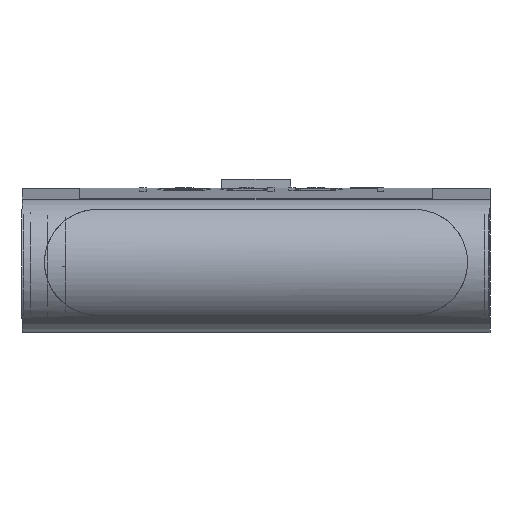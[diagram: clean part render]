
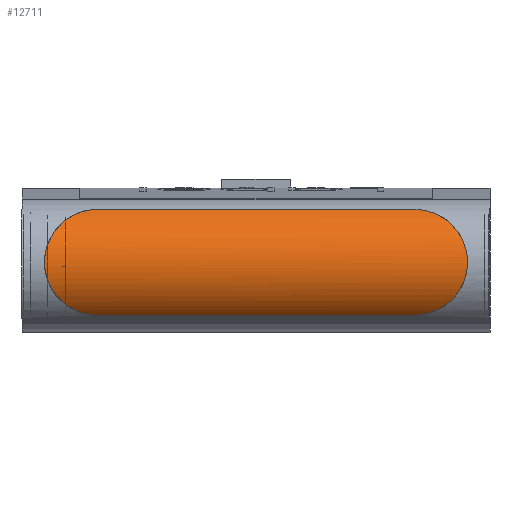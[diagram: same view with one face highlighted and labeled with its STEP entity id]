
A CAD part, left-side view. The second image highlights one B-rep face of the part: STEP entity #12711.
In plain terms, the highlighted cylindrical face has radius 9.37 mm (diameter 18.74 mm), a partial arc.
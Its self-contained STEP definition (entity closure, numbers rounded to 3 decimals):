
#2014=CARTESIAN_POINT('',(4.051,20.55,2.466));
#2015=CARTESIAN_POINT('',(4.051,20.863,2.466));
#2016=CARTESIAN_POINT('',(4.006,21.507,2.506));
#2017=CARTESIAN_POINT('',(3.791,22.514,2.702));
#2018=CARTESIAN_POINT('',(3.412,23.595,3.076));
#2019=CARTESIAN_POINT('',(2.875,24.726,3.688));
#2020=CARTESIAN_POINT('',(2.27,25.789,4.544));
#2021=CARTESIAN_POINT('',(1.736,26.641,5.531));
#2022=CARTESIAN_POINT('',(1.324,27.276,6.578));
#2023=CARTESIAN_POINT('',(1.045,27.712,7.646));
#2024=CARTESIAN_POINT('',(0.894,27.972,8.72));
#2025=CARTESIAN_POINT('',(0.868,28.074,9.794));
#2026=CARTESIAN_POINT('',(0.964,28.022,10.87));
#2027=CARTESIAN_POINT('',(1.189,27.812,11.95));
#2028=CARTESIAN_POINT('',(1.552,27.429,13.03));
#2029=CARTESIAN_POINT('',(2.064,26.852,14.097));
#2030=CARTESIAN_POINT('',(2.737,26.045,15.128));
#2031=CARTESIAN_POINT('',(3.483,25.069,15.995));
#2032=CARTESIAN_POINT('',(4.143,24.09,16.608));
#2033=CARTESIAN_POINT('',(4.677,23.142,17.028));
#2034=CARTESIAN_POINT('',(5.067,22.223,17.296));
#2035=CARTESIAN_POINT('',(5.291,21.361,17.438));
#2036=CARTESIAN_POINT('',(5.337,20.815,17.466));
#2037=CARTESIAN_POINT('',(5.337,20.55,17.466));
#2039=CARTESIAN_POINT('',(5.337,-24.45,17.466));
#2040=CARTESIAN_POINT('',(5.337,-24.715,17.466));
#2041=CARTESIAN_POINT('',(5.291,-25.261,17.438));
#2042=CARTESIAN_POINT('',(5.067,-26.123,17.296));
#2043=CARTESIAN_POINT('',(4.677,-27.042,17.028));
#2044=CARTESIAN_POINT('',(4.143,-27.99,16.608));
#2045=CARTESIAN_POINT('',(3.483,-28.969,15.995));
#2046=CARTESIAN_POINT('',(2.737,-29.945,15.128));
#2047=CARTESIAN_POINT('',(2.064,-30.752,14.097));
#2048=CARTESIAN_POINT('',(1.552,-31.329,13.029));
#2049=CARTESIAN_POINT('',(1.189,-31.712,11.95));
#2050=CARTESIAN_POINT('',(0.964,-31.922,
10.87));
#2051=CARTESIAN_POINT('',(0.868,-31.974,
9.793));
#2052=CARTESIAN_POINT('',(0.894,-31.872,
8.72));
#2053=CARTESIAN_POINT('',(1.045,-31.612,7.646));
#2054=CARTESIAN_POINT('',(1.324,-31.176,6.578));
#2055=CARTESIAN_POINT('',(1.736,-30.541,5.531));
#2056=CARTESIAN_POINT('',(2.27,-29.689,4.544));
#2057=CARTESIAN_POINT('',(2.875,-28.626,3.688));
#2058=CARTESIAN_POINT('',(3.412,-27.495,3.076));
#2059=CARTESIAN_POINT('',(3.791,-26.414,2.702));
#2060=CARTESIAN_POINT('',(4.006,-25.407,2.506));
#2061=CARTESIAN_POINT('',(4.051,-24.763,2.466));
#2062=CARTESIAN_POINT('',(4.051,-24.45,2.466));
#6159=DIRECTION('',(0.,-1.,0.));
#6160=VECTOR('',#6159,45.);
#6161=CARTESIAN_POINT('',(4.051,20.55,2.466));
#6162=LINE('',#6161,#6160);
#6163=DIRECTION('',(0.,-1.,0.));
#6164=VECTOR('',#6163,45.);
#6165=CARTESIAN_POINT('',(5.337,20.55,17.466));
#6166=LINE('',#6165,#6164);
#9324=CARTESIAN_POINT('',(5.337,20.55,17.466));
#9325=CARTESIAN_POINT('',(5.337,-24.45,17.466));
#9326=VERTEX_POINT('',#9324);
#9327=VERTEX_POINT('',#9325);
#9352=CARTESIAN_POINT('',(4.051,20.55,2.466));
#9353=CARTESIAN_POINT('',(4.051,-24.45,2.466));
#9354=VERTEX_POINT('',#9352);
#9355=VERTEX_POINT('',#9353);
#12697=CARTESIAN_POINT('',(10.253,31.12,9.49));
#12698=DIRECTION('',(0.,-1.,0.));
#12699=DIRECTION('',(-1.,0.,0.));
#12700=AXIS2_PLACEMENT_3D('',#12697,#12698,#12699);
#12701=CYLINDRICAL_SURFACE('',#12700,9.37);
#12703=ORIENTED_EDGE('',*,*,#12702,.T.);
#12705=ORIENTED_EDGE('',*,*,#12704,.T.);
#12706=ORIENTED_EDGE('',*,*,#12655,.T.);
#12708=ORIENTED_EDGE('',*,*,#12707,.F.);
#12709=EDGE_LOOP('',(#12703,#12705,#12706,#12708));
#12710=FACE_OUTER_BOUND('',#12709,.F.);
#12711=ADVANCED_FACE('',(#12710),#12701,.T.);
#2038=B_SPLINE_CURVE_WITH_KNOTS('',3,(#2014,#2015,#2016,#2017,#2018,#2019,#2020,
#2021,#2022,#2023,#2024,#2025,#2026,#2027,#2028,#2029,#2030,#2031,#2032,#2033,
#2034,#2035,#2036,#2037),.UNSPECIFIED.,.F.,.F.,(4,1,1,1,1,1,1,1,1,1,1,1,1,1,1,1,
1,1,1,1,1,4),(0.,0.048,0.095,0.143,
0.19,0.238,0.286,0.333,
0.381,0.429,0.476,0.524,
0.571,0.619,0.667,0.714,
0.762,0.81,0.857,0.905,
0.952,1.),.UNSPECIFIED.);
#2063=B_SPLINE_CURVE_WITH_KNOTS('',3,(#2039,#2040,#2041,#2042,#2043,#2044,#2045,
#2046,#2047,#2048,#2049,#2050,#2051,#2052,#2053,#2054,#2055,#2056,#2057,#2058,
#2059,#2060,#2061,#2062),.UNSPECIFIED.,.F.,.F.,(4,1,1,1,1,1,1,1,1,1,1,1,1,1,1,1,
1,1,1,1,1,4),(0.,0.048,0.095,0.143,
0.19,0.238,0.286,0.333,
0.381,0.429,0.476,0.524,
0.571,0.619,0.667,0.714,
0.762,0.81,0.857,0.905,
0.952,1.),.UNSPECIFIED.);
#12655=EDGE_CURVE('',#9327,#9355,#2063,.T.);
#12702=EDGE_CURVE('',#9354,#9326,#2038,.T.);
#12704=EDGE_CURVE('',#9326,#9327,#6166,.T.);
#12707=EDGE_CURVE('',#9354,#9355,#6162,.T.);
